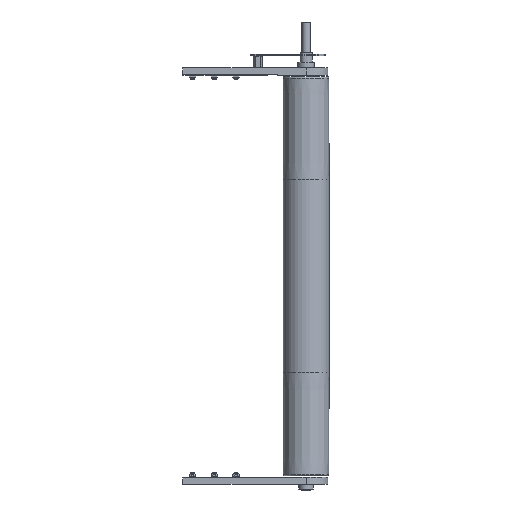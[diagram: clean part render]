
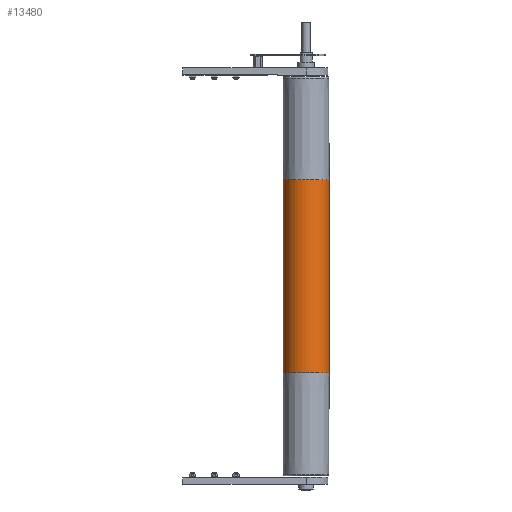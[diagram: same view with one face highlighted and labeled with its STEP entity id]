
A CAD part, front view. The second image highlights one B-rep face of the part: STEP entity #13480.
In plain terms, the highlighted cylindrical face has radius 47.5 mm (diameter 95 mm), a partial arc.
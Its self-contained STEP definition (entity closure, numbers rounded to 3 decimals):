
#696 = AXIS2_PLACEMENT_3D ( 'NONE', #12877, #12878, #12888 ) ;
#969 = AXIS2_PLACEMENT_3D ( 'NONE', #9668, #9667, #9664 ) ;
#1060 = AXIS2_PLACEMENT_3D ( 'NONE', #9776, #9771, #9765 ) ;
#1859 = VECTOR ( 'NONE', #5987, 1000. ) ;
#1864 = LINE ( 'NONE', #5989, #1859 ) ;
#1877 = VECTOR ( 'NONE', #6060, 1000. ) ;
#1879 = LINE ( 'NONE', #6063, #1877 ) ;
#3439 = CIRCLE ( 'NONE', #969, 47.5 ) ;
#3676 = CIRCLE ( 'NONE', #1060, 47.5 ) ;
#5987 = DIRECTION ( 'NONE',  ( 0., 0., -1. ) ) ;
#5989 = CARTESIAN_POINT ( 'NONE',  ( 47.5, 0., 410. ) ) ;
#6060 = DIRECTION ( 'NONE',  ( 0., 0., -1. ) ) ;
#6063 = CARTESIAN_POINT ( 'NONE',  ( -47.5, 0., 410. ) ) ;
#6500 = ORIENTED_EDGE ( 'NONE', *, *, #17216, .F. ) ;
#6621 = ORIENTED_EDGE ( 'NONE', *, *, #17032, .T. ) ;
#6689 = ORIENTED_EDGE ( 'NONE', *, *, #17637, .F. ) ;
#6711 = ORIENTED_EDGE ( 'NONE', *, *, #17624, .T. ) ;
#9664 = DIRECTION ( 'NONE',  ( 1., 0., 0. ) ) ;
#9667 = DIRECTION ( 'NONE',  ( 0., 0., 1. ) ) ;
#9668 = CARTESIAN_POINT ( 'NONE',  ( 0., 0., 200. ) ) ;
#9765 = DIRECTION ( 'NONE',  ( 1., 0., 0. ) ) ;
#9771 = DIRECTION ( 'NONE',  ( 0., 0., 1. ) ) ;
#9776 = CARTESIAN_POINT ( 'NONE',  ( 0., 0., -200. ) ) ;
#10934 = CARTESIAN_POINT ( 'NONE',  ( -47.5, 0., 200. ) ) ;
#11973 = CARTESIAN_POINT ( 'NONE',  ( 47.5, 0., 200. ) ) ;
#12024 = CARTESIAN_POINT ( 'NONE',  ( -47.5, 0., -200. ) ) ;
#12025 = CARTESIAN_POINT ( 'NONE',  ( 47.5, 0., -200. ) ) ;
#12877 = CARTESIAN_POINT ( 'NONE',  ( 0., 0., 410. ) ) ;
#12878 = DIRECTION ( 'NONE',  ( 0., 0., -1. ) ) ;
#12888 = DIRECTION ( 'NONE',  ( -1., 0., 0. ) ) ;
#13480 = ADVANCED_FACE ( 'NONE', ( #16860 ), #16851, .T. ) ;
#14949 = VERTEX_POINT ( 'NONE', #12025 ) ;
#14950 = VERTEX_POINT ( 'NONE', #12024 ) ;
#14987 = VERTEX_POINT ( 'NONE', #11973 ) ;
#15171 = VERTEX_POINT ( 'NONE', #10934 ) ;
#16851 = CYLINDRICAL_SURFACE ( 'NONE', #696, 47.5 ) ;
#16860 = FACE_OUTER_BOUND ( 'NONE', #18048, .T. ) ;
#17032 = EDGE_CURVE ( 'NONE', #14950, #14949, #3676, .T. ) ;
#17216 = EDGE_CURVE ( 'NONE', #15171, #14987, #3439, .T. ) ;
#17624 = EDGE_CURVE ( 'NONE', #15171, #14950, #1879, .T. ) ;
#17637 = EDGE_CURVE ( 'NONE', #14987, #14949, #1864, .T. ) ;
#18048 = EDGE_LOOP ( 'NONE', ( #6689, #6500, #6711, #6621 ) ) ;
